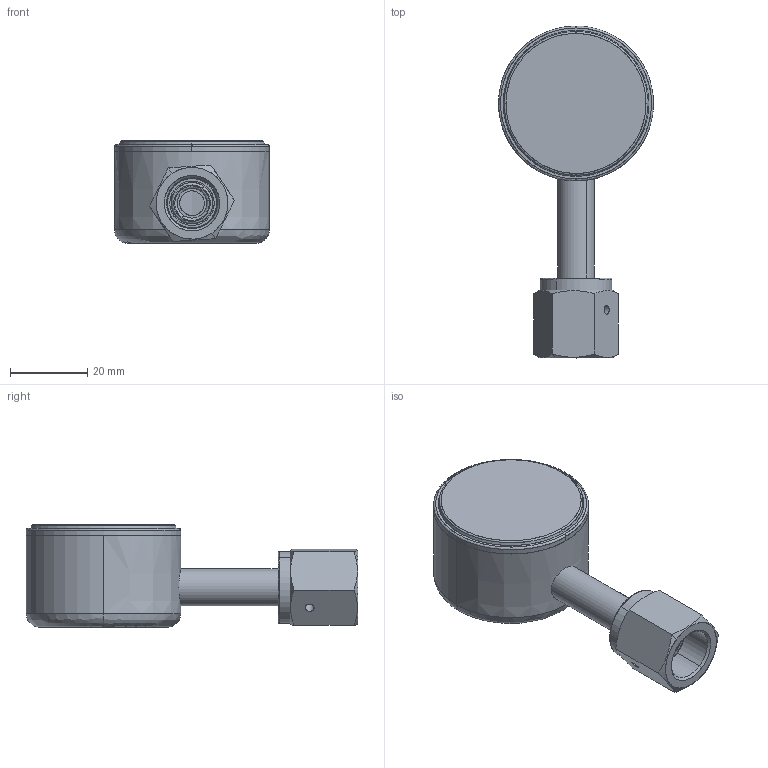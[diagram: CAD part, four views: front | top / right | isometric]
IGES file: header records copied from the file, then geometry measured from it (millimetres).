
Start section: SolidWorks IGES file using analytic representation for surfaces
Global section: file name: C:\Users\hmei\OneDrive - Illinois Tool Works, Inc\Documents\#Project\Gauge\HAI'S PRESSURE GAUGE\S15-SF.IGS; native system: SolidWorks 2023; preprocessor: SolidWorks 2023; author: HMei; date: 250304.143915; units: millimetre
Bounding box: 40 x 85.7 x 26.6 mm (x, y, z)
Surface area: 15827.5 mm2 (no closed solid volume)
Topology: 0 solids, 0 shells, 84 faces, 1856 edges, 1856 vertices
Faces by surface type: revolution 44, bspline 40
